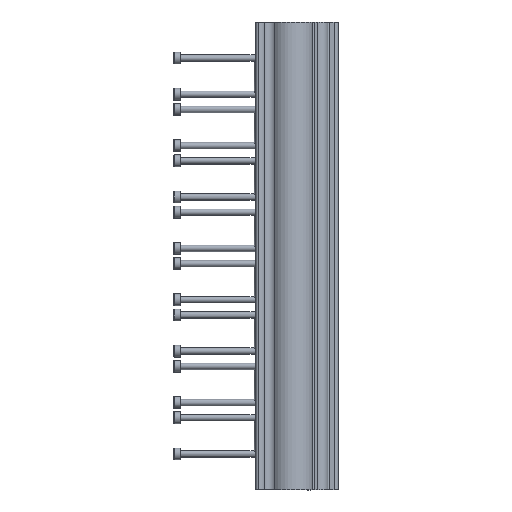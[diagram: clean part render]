
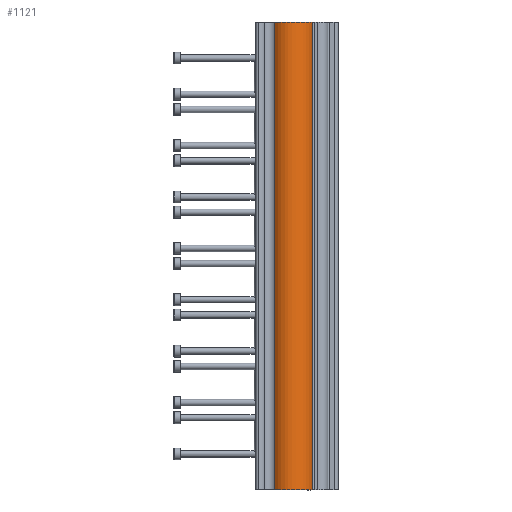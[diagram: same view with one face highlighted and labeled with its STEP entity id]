
A CAD part, left-side view. The second image highlights one B-rep face of the part: STEP entity #1121.
In plain terms, the highlighted cylindrical face has radius 10.5 mm (diameter 21 mm), a partial arc.
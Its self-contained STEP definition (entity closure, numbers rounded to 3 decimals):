
#66 = DIRECTION ( 'NONE',  ( 1., 0., 0. ) ) ;
#67 = DIRECTION ( 'NONE',  ( 0., 0., -1. ) ) ;
#68 = CARTESIAN_POINT ( 'NONE',  ( -25., 0., 0. ) ) ;
#1121 = ADVANCED_FACE ( 'NONE', ( #7220 ), #7212, .T. ) ;
#1756 = AXIS2_PLACEMENT_3D ( 'NONE', #9274, #9273, #9262 ) ;
#3164 = ORIENTED_EDGE ( 'NONE', *, *, #15970, .T. ) ;
#3183 = ORIENTED_EDGE ( 'NONE', *, *, #13710, .T. ) ;
#4743 = ORIENTED_EDGE ( 'NONE', *, *, #15197, .F. ) ;
#4748 = ORIENTED_EDGE ( 'NONE', *, *, #15854, .F. ) ;
#5052 = VERTEX_POINT ( 'NONE', #10548 ) ;
#5053 = VERTEX_POINT ( 'NONE', #10554 ) ;
#5055 = VERTEX_POINT ( 'NONE', #10556 ) ;
#5089 = VERTEX_POINT ( 'NONE', #10868 ) ;
#5487 = VECTOR ( 'NONE', #15552, 1000. ) ;
#5548 = LINE ( 'NONE', #15579, #5487 ) ;
#6193 = CIRCLE ( 'NONE', #18074, 10.5 ) ;
#7212 = CYLINDRICAL_SURFACE ( 'NONE', #1756, 10.5 ) ;
#7220 = FACE_OUTER_BOUND ( 'NONE', #21369, .T. ) ;
#9262 = DIRECTION ( 'NONE',  ( 1., 0., 0. ) ) ;
#9273 = DIRECTION ( 'NONE',  ( 0., 0., 1. ) ) ;
#9274 = CARTESIAN_POINT ( 'NONE',  ( -25., 0., -247.043 ) ) ;
#10548 = CARTESIAN_POINT ( 'NONE',  ( -25.776, -10.471, 0. ) ) ;
#10554 = CARTESIAN_POINT ( 'NONE',  ( -25.776, -10.471, -218.6 ) ) ;
#10556 = CARTESIAN_POINT ( 'NONE',  ( -32.529, 7.319, -218.6 ) ) ;
#10868 = CARTESIAN_POINT ( 'NONE',  ( -32.529, 7.319, 0. ) ) ;
#11088 = CIRCLE ( 'NONE', #17791, 10.5 ) ;
#11158 = VECTOR ( 'NONE', #11828, 1000. ) ;
#11189 = LINE ( 'NONE', #11829, #11158 ) ;
#11828 = DIRECTION ( 'NONE',  ( 0., 0., 1. ) ) ;
#11829 = CARTESIAN_POINT ( 'NONE',  ( -25.776, -10.471, -247.043 ) ) ;
#11915 = DIRECTION ( 'NONE',  ( -1., 0., 0. ) ) ;
#11916 = DIRECTION ( 'NONE',  ( 0., 0., -1. ) ) ;
#11917 = CARTESIAN_POINT ( 'NONE',  ( -25., 0., -218.6 ) ) ;
#13710 = EDGE_CURVE ( 'NONE', #5052, #5089, #6193, .T. ) ;
#15197 = EDGE_CURVE ( 'NONE', #5055, #5089, #5548, .T. ) ;
#15552 = DIRECTION ( 'NONE',  ( 0., 0., 1. ) ) ;
#15579 = CARTESIAN_POINT ( 'NONE',  ( -32.529, 7.319, -234.079 ) ) ;
#15854 = EDGE_CURVE ( 'NONE', #5053, #5055, #11088, .T. ) ;
#15970 = EDGE_CURVE ( 'NONE', #5053, #5052, #11189, .T. ) ;
#17791 = AXIS2_PLACEMENT_3D ( 'NONE', #11917, #11916, #11915 ) ;
#18074 = AXIS2_PLACEMENT_3D ( 'NONE', #68, #67, #66 ) ;
#21369 = EDGE_LOOP ( 'NONE', ( #4748, #3164, #3183, #4743 ) ) ;
